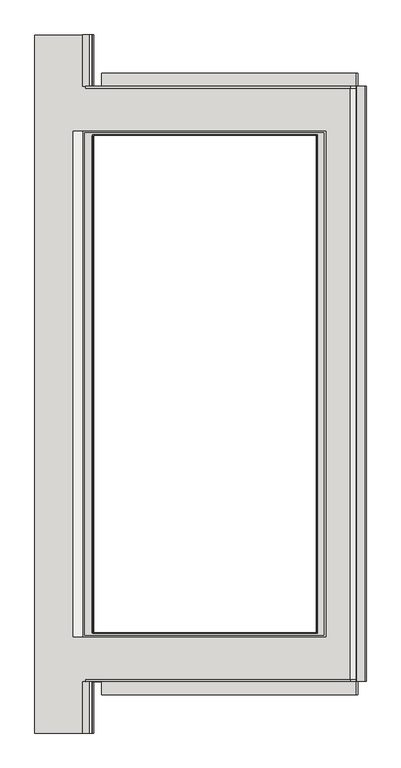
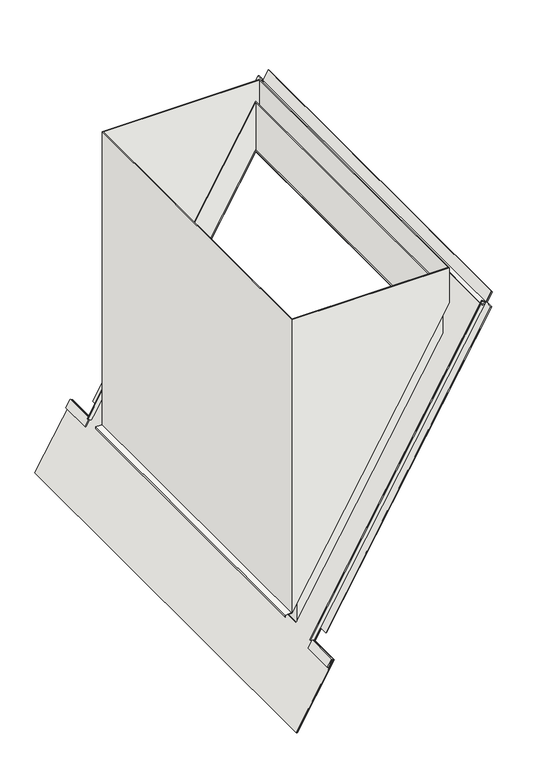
"""IFC4 building model written with IfcOpenShell, lengths in millimetres: covering geometry, DERS_420_AM_AEB_Delta Discovery Air_mountingbox-GG_M&G : mountingbox DDA."""

from ifc_helpers import new_model, si_unit, frame, origin, place, context, project, spatial, polyline, outline, extrude, faceted_brep, source, transform, mapped, element, save


def covering_12e15cb3(model_context):
    return source(origin(), model_context, "Body", "SolidModel", [
        extrude(outline(polyline([(0.0, 0.0), (0.0, -350.0), (-157.5, -350.0), (-157.5, -410.0), (-117.5, -410.0), (-117.5, -1970.0), (-157.5, -1970.0), (-157.5, -2020.0), (-1977.5, -2020.0), (-1977.5, -1970.0), (-2017.5, -1970.0), (-2017.5, -410.0), (-1977.5, -410.0), (-1977.5, -350.0), (-2135.0, -350.0), (-2135.0, 0.0), (0.0, 0.0)]), holes=[polyline([(-1827.5, -350.0), (-1827.5, -1720.0), (-307.5, -1720.0), (-307.5, -350.0), (-1827.5, -350.0)])]), frame((-175.0, 1067.5, -303.1088913), z_axis=(-0.8660254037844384, 0.0, 0.5000000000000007), x_axis=(0.0, 1.0, 0.0)), (0.0, 0.0, 1.0), 5.0),
        faceted_brep([(0.0, 760.0, 244.0), (0.0, 760.0, 0.0), (684.0, 760.0, 1184.7227524), (684.0, 760.0, 1428.7227524), (0.0, -760.0, 244.0), (0.0, -760.0, 0.0), (684.0, -760.0, 1428.7227524), (684.0, -760.0, 1184.7227524), (685.9866683, 762.0, 1432.1637627), (685.9866683, 762.0, 1188.1637627), (-2.0066659, 762.0, -3.4756472), (-2.0066659, 762.0, 240.5243528), (-2.0066659, -762.0, -3.4756472), (-2.0066659, -762.0, 240.5243528), (685.9866683, -762.0, 1188.1637627), (685.9866683, -762.0, 1432.1637627)], [[[0, 1, 2, 3]], [[1, 0, 4, 5]], [[5, 4, 6, 7]], [[7, 6, 3, 2]], [[8, 9, 10, 11]], [[11, 10, 12, 13]], [[13, 12, 14, 15]], [[9, 8, 15, 14]], [[10, 9, 14, 12], [2, 1, 5, 7]], [[8, 11, 13, 15], [0, 3, 6, 4]]]),
        faceted_brep([(710.9866683, -773.0, 1526.4650329), (710.9866683, -773.0, 1351.4650329), (710.9866683, 773.0, 1351.4650329), (710.9866683, 773.0, 1526.4650329), (-32.0066659, 773.0, 64.5628285), (-32.0066659, 773.0, 1526.4650329), (-32.0066659, -773.0, 64.5628285), (-32.0066659, -773.0, 1526.4650329), (-27.0066659, -768.0, 1526.4650329), (-27.0066659, -768.0, 73.2230826), (-27.0066659, 768.0, 73.2230826), (-27.0066659, 768.0, 1526.4650329), (705.9866683, 768.0, 1342.8047789), (705.9866683, 768.0, 1526.4650329), (705.9866683, -768.0, 1342.8047789), (705.9866683, -768.0, 1526.4650329)], [[[0, 1, 2, 3]], [[3, 2, 4, 5]], [[5, 4, 6, 7]], [[1, 0, 7, 6]], [[8, 9, 10, 11]], [[11, 10, 12, 13]], [[13, 12, 14, 15]], [[9, 8, 15, 14]], [[2, 1, 6, 4], [10, 9, 14, 12]], [[0, 3, 5, 7], [8, 11, 13, 15]]]),
        extrude(outline(polyline([(7.5, -12.9903811), (-27.1410162, -32.9903811), (-28.6410162, -30.3923048), (3.4019238, -11.8923048), (-0.0980762, -5.830127), (2.5, -4.330127), (7.5, -12.9903811)])), frame((0.0, -1067.5, 0.0), z_axis=(0.0, 1.0, 0.0), x_axis=(0.0, 0.0, 1.0)), (0.0, 0.0, 1.0), 157.5),
        extrude(outline(polyline([(7.5, -12.9903811), (-27.1410162, -32.9903811), (-28.6410162, -30.3923048), (3.4019238, -11.8923048), (-0.0980762, -5.830127), (2.5, -4.330127), (7.5, -12.9903811)])), frame((0.0, 910.0, 0.0), z_axis=(0.0, 1.0, 0.0), x_axis=(0.0, 0.0, 1.0)), (0.0, 0.0, 1.0), 157.5),
        extrude(outline(polyline([(65.5628285, -62.0066659), (55.5628285, -62.0066659), (55.5628285, -61.0066659), (64.5628285, -61.0066659), (64.5628285, -32.0066659), (65.5628285, -32.0066659), (65.5628285, -62.0066659)])), frame((0.0, -773.0, 0.0), z_axis=(0.0, 1.0, 0.0), x_axis=(0.0, 0.0, 1.0)), (0.0, 0.0, 1.0), 1546.0),
        extrude(outline(polyline([(0.0, -20.0), (0.0, 0.0), (1820.0, 0.0), (1820.0, -20.0), (0.0, -20.0)])), frame((787.6454517, -910.0, 1395.4551441), z_axis=(-0.25881904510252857, 0.0, 0.9659258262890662), x_axis=(0.0, 1.0, 0.0)), (0.0, 0.0, 1.0), 5.0),
        extrude(outline(polyline([(-40.0, 20.0), (-40.0, 0.0), (-45.0, 0.0), (-45.0, 20.0), (-40.0, 20.0)])), frame((-5.830127, 950.0, -0.0980762), z_axis=(0.5000000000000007, 0.0, 0.8660254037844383), x_axis=(0.0, 1.0, 0.0)), (0.0, 0.0, 1.0), 1623.0),
        extrude(outline(polyline([(-40.0, -20.0), (-45.0, -20.0), (-45.0, 0.0), (-40.0, 0.0), (-40.0, -20.0)])), frame((-5.830127, -950.0, -0.0980762), z_axis=(0.5000000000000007, 0.0, 0.8660254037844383), x_axis=(0.0, -1.0, 0.0)), (0.0, 0.0, 1.0), 1623.0),
    ])


if __name__ == "__main__":
    model = new_model("IFC4")
    model_context = context("Model", 3, world=origin())
    ifc_project = project(units=[si_unit("LENGTHUNIT", "METRE", prefix="MILLI")], contexts=[model_context])
    site = spatial("IfcSite", under=ifc_project)
    building = spatial("IfcBuilding", under=site)
    placement = place(None, origin())
    covering_shape = covering_12e15cb3(model_context)
    element("IfcCovering", 1, ObjectType="DERS_420_AM_AEB_Delta Discovery Air_mountingbox-GG_M&G : mountingbox DDA", at=placement, inside=building, context=model_context, shape_type="MappedRepresentation", body=[
        mapped(covering_shape, transform((0.0, 0.0, 0.0), x_axis=(1.0, 0.0, 0.0), y_axis=(0.0, 1.0, 0.0), z_axis=(0.0, 0.0, 1.0))),
    ])
    save(model, "model.ifc")
